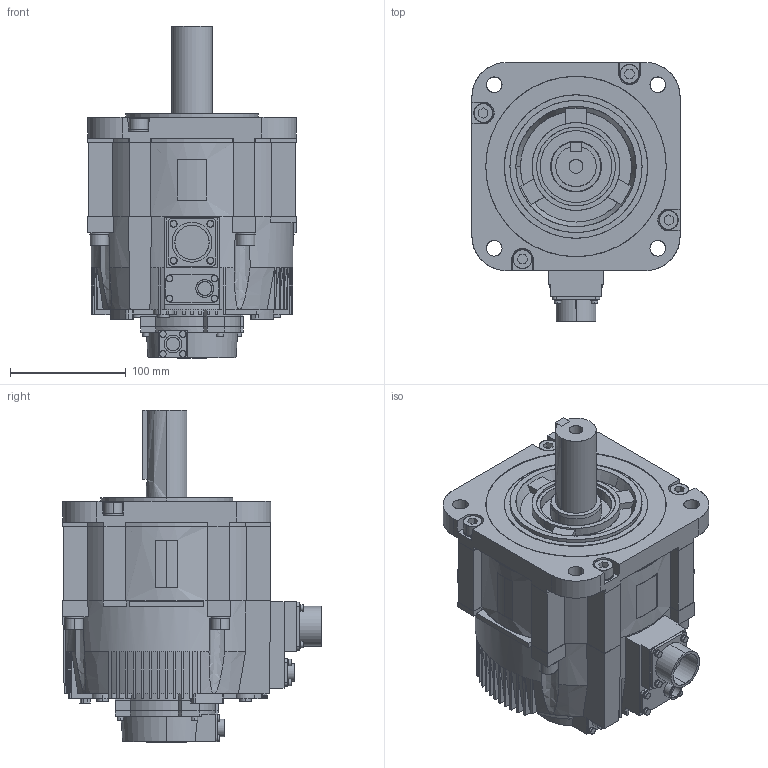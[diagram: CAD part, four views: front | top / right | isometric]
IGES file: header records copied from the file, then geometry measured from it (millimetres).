
Start section: SolidWorks IGES file using analytic representation for surfaces
Global section: file name: D:\YASKAWA\sgm7g_30__a6c.IGS; native system: SolidWorks 2006 by SolidWorks Corporation; preprocessor: SolidWorks 2006 by SolidWorks Corporation; author: yamanouchi; date: 140507.140855; units: millimetre
Bounding box: 180 x 223.85 x 287.1 mm (x, y, z)
Surface area: 260143.4 mm2 (no closed solid volume)
Topology: 0 solids, 0 shells, 956 faces, 12189 edges, 12186 vertices
Faces by surface type: bspline 628, revolution 328
